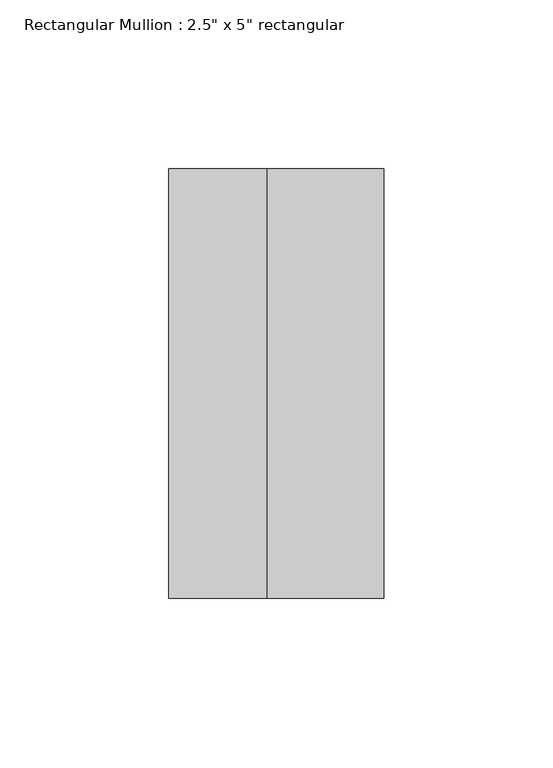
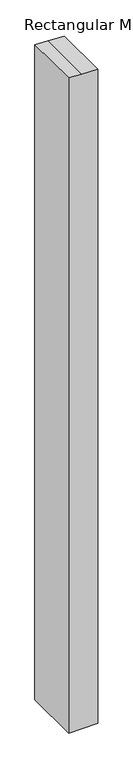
"""IFC4 building model written with IfcOpenShell, lengths in millimetres: member geometry."""

from ifc_helpers import new_model, si_unit, frame, origin, place, context, project, spatial, polyline, outline, extrude, source, transform, mapped, element, save


def member_5910e702(model_context):
    return source(origin(), model_context, "Body", "SweptSolid", [
        extrude(outline(polyline([(-64.8775557, 31.75), (-63.4449853, -2.6426951), (-62.232569, -31.75), (-1571.0379787, -31.75), (-1571.0379787, 31.75), (-64.8775557, 31.75)])), frame((0.0, -63.5, 0.0), z_axis=(0.0, 1.0, 0.0), x_axis=(0.0, 0.0, 1.0)), (0.0, 0.0, 1.0), 127.0),
    ])


if __name__ == "__main__":
    model = new_model("IFC4")
    model_context = context("Model", 3, world=origin())
    ifc_project = project(units=[si_unit("LENGTHUNIT", "METRE", prefix="MILLI")], contexts=[model_context])
    site = spatial("IfcSite", under=ifc_project)
    building = spatial("IfcBuilding", under=site)
    placement = place(None, origin())
    member_shape = member_5910e702(model_context)
    element("IfcMember", 1, ObjectType="Rectangular Mullion : 2.5\" x 5\" rectangular", at=placement, inside=building, context=model_context, shape_type="MappedRepresentation", body=[
        mapped(member_shape, transform((0.0, 0.0, 0.0), x_axis=(1.0, 0.0, 0.0), y_axis=(0.0, 1.0, 0.0), z_axis=(0.0, 0.0, 1.0))),
    ])
    save(model, "model.ifc")
